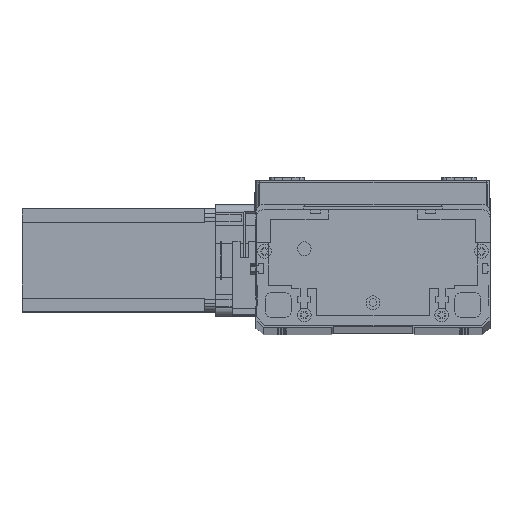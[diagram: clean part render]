
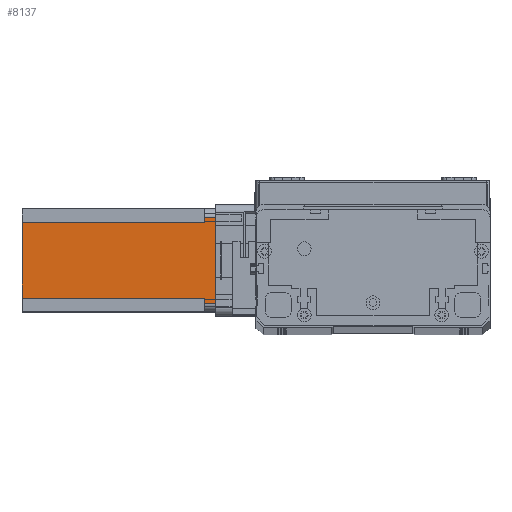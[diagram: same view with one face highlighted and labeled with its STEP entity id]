
A CAD part, top view. The second image highlights one B-rep face of the part: STEP entity #8137.
In plain terms, the highlighted planar face has unit normal (0, 0, 1) as drawn and (0, -1, 0) by its records, which use the part's own axes.
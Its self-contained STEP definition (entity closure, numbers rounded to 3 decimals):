
#66 = EDGE_CURVE ( 'NONE', #10228, #10395, #1163, .T. ) ;
#131 = DIRECTION ( 'NONE',  ( 0., 0., -1. ) ) ;
#216 = DIRECTION ( 'NONE',  ( 0., -1., 0. ) ) ;
#250 = CARTESIAN_POINT ( 'NONE',  ( 0., 0., -112.5 ) ) ;
#412 = EDGE_CURVE ( 'NONE', #25662, #10395, #3867, .T. ) ;
#490 = PLANE ( 'NONE',  #13381 ) ;
#538 = LINE ( 'NONE', #698, #22493 ) ;
#698 = CARTESIAN_POINT ( 'NONE',  ( 5., 0., -112.5 ) ) ;
#1163 = LINE ( 'NONE', #5555, #16320 ) ;
#1207 = FACE_OUTER_BOUND ( 'NONE', #8017, .T. ) ;
#1292 = ORIENTED_EDGE ( 'NONE', *, *, #27205, .F. ) ;
#3357 = CARTESIAN_POINT ( 'NONE',  ( 8., 0., -6.5 ) ) ;
#3793 = CARTESIAN_POINT ( 'NONE',  ( 5., 0., 0. ) ) ;
#3850 = ORIENTED_EDGE ( 'NONE', *, *, #26873, .T. ) ;
#3867 = LINE ( 'NONE', #12460, #8985 ) ;
#3931 = DIRECTION ( 'NONE',  ( 0., 0., 1. ) ) ;
#4370 = VERTEX_POINT ( 'NONE', #7016 ) ;
#4420 = DIRECTION ( 'NONE',  ( 1., 0., 0. ) ) ;
#4425 = DIRECTION ( 'NONE',  ( 1., 0., 0. ) ) ;
#4609 = VECTOR ( 'NONE', #3931, 1000. ) ;
#4976 = CARTESIAN_POINT ( 'NONE',  ( 55., 0., -112.5 ) ) ;
#5148 = VECTOR ( 'NONE', #20809, 1000. ) ;
#5548 = DIRECTION ( 'NONE',  ( -1., 0., 0. ) ) ;
#5555 = CARTESIAN_POINT ( 'NONE',  ( 0., 0., -112.5 ) ) ;
#6032 = ORIENTED_EDGE ( 'NONE', *, *, #26675, .T. ) ;
#7016 = CARTESIAN_POINT ( 'NONE',  ( 8., 0., -6.5 ) ) ;
#7160 = DIRECTION ( 'NONE',  ( 0., 0., 1. ) ) ;
#7265 = DIRECTION ( 'NONE',  ( 0., 0., -1. ) ) ;
#7353 = VECTOR ( 'NONE', #4420, 1000. ) ;
#7697 = VECTOR ( 'NONE', #7160, 1000. ) ;
#8017 = EDGE_LOOP ( 'NONE', ( #6032, #3850, #20403, #26998, #18445, #1292, #11364, #11058 ) ) ;
#8137 = ADVANCED_FACE ( 'NONE', ( #1207 ), #490, .T. ) ;
#8724 = VECTOR ( 'NONE', #5548, 1000. ) ;
#8769 = VERTEX_POINT ( 'NONE', #25052 ) ;
#8985 = VECTOR ( 'NONE', #17520, 1000. ) ;
#10228 = VERTEX_POINT ( 'NONE', #21648 ) ;
#10395 = VERTEX_POINT ( 'NONE', #26037 ) ;
#10893 = VERTEX_POINT ( 'NONE', #13400 ) ;
#11058 = ORIENTED_EDGE ( 'NONE', *, *, #412, .F. ) ;
#11364 = ORIENTED_EDGE ( 'NONE', *, *, #66, .T. ) ;
#12342 = VERTEX_POINT ( 'NONE', #17368 ) ;
#12460 = CARTESIAN_POINT ( 'NONE',  ( 52., 0., -112.5 ) ) ;
#13381 = AXIS2_PLACEMENT_3D ( 'NONE', #250, #216, #131 ) ;
#13400 = CARTESIAN_POINT ( 'NONE',  ( 55., 0., -6.5 ) ) ;
#14113 = LINE ( 'NONE', #4976, #7697 ) ;
#14406 = CARTESIAN_POINT ( 'NONE',  ( 52., 0., -6.5 ) ) ;
#14566 = CARTESIAN_POINT ( 'NONE',  ( 0., 0., 0. ) ) ;
#14695 = CARTESIAN_POINT ( 'NONE',  ( 8., 0., -112.5 ) ) ;
#15376 = LINE ( 'NONE', #14695, #4609 ) ;
#16320 = VECTOR ( 'NONE', #4425, 1000. ) ;
#16568 = LINE ( 'NONE', #14566, #5148 ) ;
#17257 = CARTESIAN_POINT ( 'NONE',  ( 52., 0., -6.5 ) ) ;
#17364 = LINE ( 'NONE', #17257, #7353 ) ;
#17368 = CARTESIAN_POINT ( 'NONE',  ( 55., 0., 0. ) ) ;
#17520 = DIRECTION ( 'NONE',  ( 0., 0., -1. ) ) ;
#18445 = ORIENTED_EDGE ( 'NONE', *, *, #27047, .F. ) ;
#19918 = LINE ( 'NONE', #3357, #8724 ) ;
#20403 = ORIENTED_EDGE ( 'NONE', *, *, #22862, .F. ) ;
#20809 = DIRECTION ( 'NONE',  ( 1., 0., 0. ) ) ;
#21648 = CARTESIAN_POINT ( 'NONE',  ( 8., 0., -112.5 ) ) ;
#22493 = VECTOR ( 'NONE', #7265, 1000. ) ;
#22862 = EDGE_CURVE ( 'NONE', #22891, #12342, #16568, .T. ) ;
#22891 = VERTEX_POINT ( 'NONE', #3793 ) ;
#25052 = CARTESIAN_POINT ( 'NONE',  ( 5., 0., -6.5 ) ) ;
#25662 = VERTEX_POINT ( 'NONE', #14406 ) ;
#26037 = CARTESIAN_POINT ( 'NONE',  ( 52., 0., -112.5 ) ) ;
#26675 = EDGE_CURVE ( 'NONE', #25662, #10893, #17364, .T. ) ;
#26873 = EDGE_CURVE ( 'NONE', #10893, #12342, #14113, .T. ) ;
#26903 = EDGE_CURVE ( 'NONE', #22891, #8769, #538, .T. ) ;
#26998 = ORIENTED_EDGE ( 'NONE', *, *, #26903, .T. ) ;
#27047 = EDGE_CURVE ( 'NONE', #4370, #8769, #19918, .T. ) ;
#27205 = EDGE_CURVE ( 'NONE', #10228, #4370, #15376, .T. ) ;
